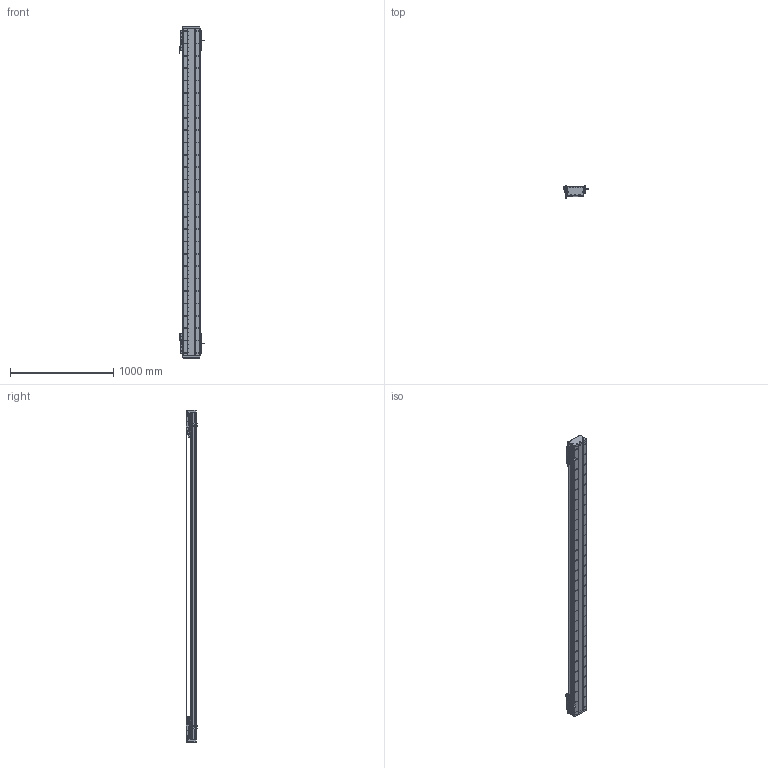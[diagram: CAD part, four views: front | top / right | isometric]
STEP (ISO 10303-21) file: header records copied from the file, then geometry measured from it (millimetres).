
FILE_DESCRIPTION (( 'STEP AP203' ), '1' );
FILE_NAME ('DA-C165-2-C2-T2720-C010-0.2 直线电机.STEP', '2023-05-11T08:31:05', ( '微软用户' ), ( '微软中国' ), 'SwSTEP 2.0', 'SolidWorks 2019', '' );
FILE_SCHEMA (( 'CONFIG_CONTROL_DESIGN' ));
Length unit declared in the file: millimetre
Products named in the file (22): 葩璃 PM-Y45^DA-C165-C2-T-C010-0.2-N 眻盄萇儂; IU-CU165-L-00 菁釱_L3180; 复件 六角薄螺母 M3^DA-C165-C2-T-C010-0.2-N 直线电机_GB_FASTENER_NUT_STNAB M3-C; 葩璃 CKM01-W075-TRL^DA-C165-C2-T-C010-0.2-N 眻盄萇儂; 复件 DA95-HXJ-00 缓冲橡胶^DA-C165-C2-T-C010-0.2-N 直线电机; 复件 DA165-GDLK-00 钢带拉块^复件 CU165钢带组件_DA-C165-C2-T-C010-0.2-N 直线电机; 复件 DMA-010-0.2 读数头^DA-C165-C2-T-C010-0.2-N 直线电机; 葩璃 PM-T45^DA-C165-C2-T-C010-0.2-N 眻盄萇儂; 复件 66338-1000-006-00 光电感应块^DA-C165-C2-T-C010-0.2-N 直线电机; 复件 DA165-GD-1860-002-00 钢带盖板^复件 CU165钢带组件_DA-C165-C2-T-C010-0.2-N 直线电机; 珨极趙賑雄怢啣wf-C2; 葩璃 DA95-GT-T-00^IU-CU165-L 菁釱絳寢_T; 复件 DA126-GYP-ZJ-00 中间光电感应片^DA-C165-C2-T-C010-0.2-N 直线电机; 复件 DA165-GD-DG-H-00 端盖^复件 CU165钢带组件_DA-C165-C2-T-C010-0.2-N 直线电机; 复件 DKW-HXJ-JY-00 缓冲橡胶^DA-C165-C2-T-C010-0.2-N 直线电机; 复件 DA165-GYP-00 光电感应片^DA-C165-C2-T-C010-0.2-N 直线电机; 复件 CU165钢带组件^DA-C165-C2-T-C010-0.2-N 直线电机; IU-CU165-L 菁釱絳寢; 复件 DA165-GDYK-00 钢带压块^复件 CU165钢带组件_DA-C165-C2-T-C010-0.2-N 直线电机; 复件 CKM02-W075-C1C2-TP-3.0 一体电机-C2^DA-C165-C2-T-C010-0.2-N 直线电机; 复件 XD-U-02L 磁栅尺^DA-C165-C2-T-C010-0.2-N 直线电机_T; DA-C165-2-C2-T2720-C010-0.2 眻盄萇儂
Assembly tree (43 placements, depth 3):
  DA-C165-2-C2-T2720-C010-0.2 眻盄萇儂
    IU-CU165-L 菁釱絳寢
      IU-CU165-L-00 菁釱_L3180
      葩璃 DA95-GT-T-00^IU-CU165-L 菁釱絳寢_T  x4
    复件 XD-U-02L 磁栅尺^DA-C165-C2-T-C010-0.2-N 直线电机_T
    葩璃 PM-T45^DA-C165-C2-T-C010-0.2-N 眻盄萇儂  x4
    葩璃 CKM01-W075-TRL^DA-C165-C2-T-C010-0.2-N 眻盄萇儂
    复件 CU165钢带组件^DA-C165-C2-T-C010-0.2-N 直线电机
      复件 DA165-GD-DG-H-00 端盖^复件 CU165钢带组件_DA-C165-C2-T-C010-0.2-N 直线电机  x2
      复件 DA165-GDYK-00 钢带压块^复件 CU165钢带组件_DA-C165-C2-T-C010-0.2-N 直线电机  x2
      复件 DA165-GD-1860-002-00 钢带盖板^复件 CU165钢带组件_DA-C165-C2-T-C010-0.2-N 直线电机
      复件 DA165-GDLK-00 钢带拉块^复件 CU165钢带组件_DA-C165-C2-T-C010-0.2-N 直线电机  x2
    复件 DA95-HXJ-00 缓冲橡胶^DA-C165-C2-T-C010-0.2-N 直线电机  x4
    复件 CKM02-W075-C1C2-TP-3.0 一体电机-C2^DA-C165-C2-T-C010-0.2-N 直线电机  x2
    复件 DMA-010-0.2 读数头^DA-C165-C2-T-C010-0.2-N 直线电机  x2
    复件 DA165-GYP-00 光电感应片^DA-C165-C2-T-C010-0.2-N 直线电机  x2
    复件 66338-1000-006-00 光电感应块^DA-C165-C2-T-C010-0.2-N 直线电机
    葩璃 PM-Y45^DA-C165-C2-T-C010-0.2-N 眻盄萇儂
    复件 DA126-GYP-ZJ-00 中间光电感应片^DA-C165-C2-T-C010-0.2-N 直线电机
    复件 DKW-HXJ-JY-00 缓冲橡胶^DA-C165-C2-T-C010-0.2-N 直线电机  x2
    复件 六角薄螺母 M3^DA-C165-C2-T-C010-0.2-N 直线电机_GB_FASTENER_NUT_STNAB M3-C  x6
    珨极趙賑雄怢啣wf-C2  x2
Bounding box: 247.2 x 111.45 x 3220 mm (x, y, z)
Volume: 19021010.6 mm3; surface area: 5607694.4 mm2
Topology: 119 solids, 119 shells, 5959 faces, 17032 edges, 10794 vertices
Faces by surface type: cylinder 3340, plane 1827, cone 704, torus 80, sphere 8
Entity records: 151520 total; most frequent: CARTESIAN_POINT 41973, ORIENTED_EDGE 23008, DIRECTION 21796, EDGE_CURVE 11504, AXIS2_PLACEMENT_3D 8306, VERTEX_POINT 7531, EDGE_LOOP 5203, VECTOR 5184
